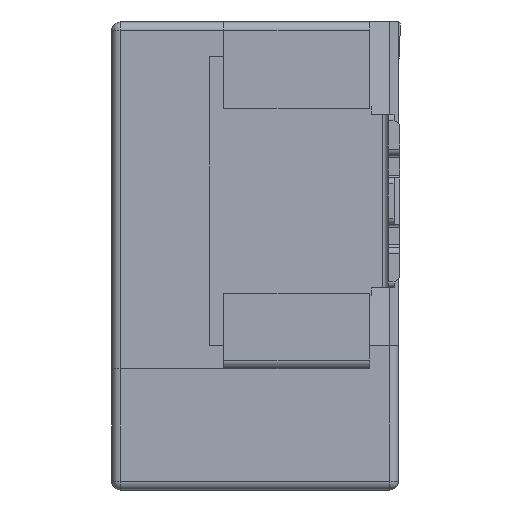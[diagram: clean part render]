
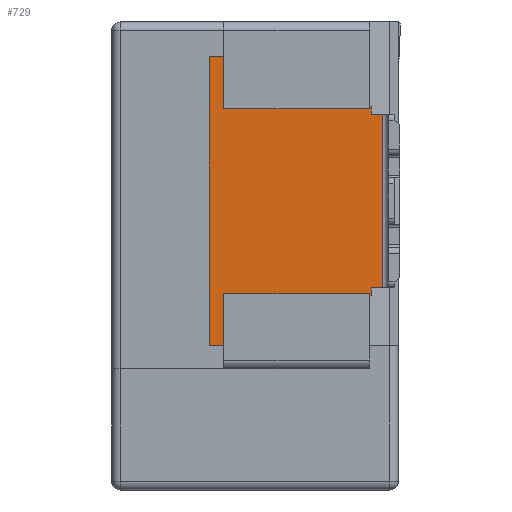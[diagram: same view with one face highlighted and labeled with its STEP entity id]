
A CAD part, left-side view. The second image highlights one B-rep face of the part: STEP entity #729.
In plain terms, the highlighted planar face has unit normal (-1, 0, 0).
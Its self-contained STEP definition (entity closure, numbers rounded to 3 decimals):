
#58 = VERTEX_POINT ( 'NONE', #28548 ) ;
#698 = DIRECTION ( 'NONE',  ( 0., 0., -1. ) ) ;
#729 = ADVANCED_FACE ( 'NONE', ( #6520 ), #9304, .F. ) ;
#866 = VECTOR ( 'NONE', #23124, 1000. ) ;
#987 = VECTOR ( 'NONE', #16977, 1000. ) ;
#1033 = CARTESIAN_POINT ( 'NONE',  ( -18.45, 0.22, 6.8 ) ) ;
#1131 = LINE ( 'NONE', #11583, #987 ) ;
#1147 = CARTESIAN_POINT ( 'NONE',  ( -18.45, 5.77, 5. ) ) ;
#1577 = LINE ( 'NONE', #12212, #30098 ) ;
#1878 = EDGE_CURVE ( 'NONE', #16275, #15589, #33023, .T. ) ;
#2202 = ORIENTED_EDGE ( 'NONE', *, *, #21168, .F. ) ;
#2263 = CARTESIAN_POINT ( 'NONE',  ( -18.45, -0.23, -3. ) ) ;
#2268 = CARTESIAN_POINT ( 'NONE',  ( -18.45, 5.27, -5. ) ) ;
#2292 = EDGE_CURVE ( 'NONE', #16141, #12809, #16798, .T. ) ;
#2480 = LINE ( 'NONE', #31743, #26340 ) ;
#3061 = LINE ( 'NONE', #31979, #22755 ) ;
#3113 = DIRECTION ( 'NONE',  ( 0., 1., 0. ) ) ;
#3246 = VECTOR ( 'NONE', #10176, 1000. ) ;
#3322 = VERTEX_POINT ( 'NONE', #2263 ) ;
#3334 = VECTOR ( 'NONE', #13682, 1000. ) ;
#3364 = VECTOR ( 'NONE', #31696, 1000. ) ;
#3467 = EDGE_CURVE ( 'NONE', #33397, #15589, #16030, .T. ) ;
#3638 = CARTESIAN_POINT ( 'NONE',  ( -18.45, 5.77, 5. ) ) ;
#4090 = DIRECTION ( 'NONE',  ( 0., -1., 0. ) ) ;
#4401 = CARTESIAN_POINT ( 'NONE',  ( -18.45, 5.27, 5. ) ) ;
#4912 = EDGE_CURVE ( 'NONE', #3322, #7950, #33414, .T. ) ;
#5135 = VECTOR ( 'NONE', #13191, 1000. ) ;
#5609 = EDGE_CURVE ( 'NONE', #58, #25132, #1131, .T. ) ;
#5655 = ORIENTED_EDGE ( 'NONE', *, *, #3467, .F. ) ;
#6520 = FACE_OUTER_BOUND ( 'NONE', #17108, .T. ) ;
#6529 = VERTEX_POINT ( 'NONE', #26908 ) ;
#6746 = CARTESIAN_POINT ( 'NONE',  ( -18.45, 0.16, 3. ) ) ;
#6862 = DIRECTION ( 'NONE',  ( 0., 1., 0. ) ) ;
#7156 = DIRECTION ( 'NONE',  ( 0., 0., -1. ) ) ;
#7370 = CARTESIAN_POINT ( 'NONE',  ( -18.45, 0.22, -3.335 ) ) ;
#7950 = VERTEX_POINT ( 'NONE', #14539 ) ;
#8077 = LINE ( 'NONE', #15764, #3246 ) ;
#8521 = VECTOR ( 'NONE', #22863, 1000. ) ;
#8538 = ORIENTED_EDGE ( 'NONE', *, *, #15181, .F. ) ;
#8995 = VERTEX_POINT ( 'NONE', #12347 ) ;
#9036 = LINE ( 'NONE', #1033, #11351 ) ;
#9304 = PLANE ( 'NONE',  #28050 ) ;
#9545 = CARTESIAN_POINT ( 'NONE',  ( -18.45, 5.77, -3. ) ) ;
#10176 = DIRECTION ( 'NONE',  ( 0., 0.707, 0.707 ) ) ;
#10443 = CARTESIAN_POINT ( 'NONE',  ( -18.45, -0.78, -3.2 ) ) ;
#10795 = LINE ( 'NONE', #10443, #14028 ) ;
#11273 = VERTEX_POINT ( 'NONE', #29893 ) ;
#11287 = CARTESIAN_POINT ( 'NONE',  ( -18.45, 5.27, 3.2 ) ) ;
#11295 = ORIENTED_EDGE ( 'NONE', *, *, #27262, .F. ) ;
#11351 = VECTOR ( 'NONE', #698, 1000. ) ;
#11583 = CARTESIAN_POINT ( 'NONE',  ( -18.45, 0.22, 6.8 ) ) ;
#12034 = DIRECTION ( 'NONE',  ( 0., -1., 0. ) ) ;
#12212 = CARTESIAN_POINT ( 'NONE',  ( -18.45, 5.77, 5. ) ) ;
#12347 = CARTESIAN_POINT ( 'NONE',  ( -18.45, 0.16, 3.275 ) ) ;
#12720 = EDGE_CURVE ( 'NONE', #8995, #11273, #8077, .T. ) ;
#12809 = VERTEX_POINT ( 'NONE', #21501 ) ;
#13191 = DIRECTION ( 'NONE',  ( 0., 0., -1. ) ) ;
#13682 = DIRECTION ( 'NONE',  ( 0., 0., -1. ) ) ;
#14028 = VECTOR ( 'NONE', #3113, 1000. ) ;
#14223 = CARTESIAN_POINT ( 'NONE',  ( -18.45, 5.77, -5. ) ) ;
#14413 = VECTOR ( 'NONE', #18409, 1000. ) ;
#14539 = CARTESIAN_POINT ( 'NONE',  ( -18.45, 0.16, -3. ) ) ;
#14565 = EDGE_CURVE ( 'NONE', #11273, #12809, #9036, .T. ) ;
#14742 = VERTEX_POINT ( 'NONE', #6746 ) ;
#14880 = ORIENTED_EDGE ( 'NONE', *, *, #20844, .F. ) ;
#15031 = ORIENTED_EDGE ( 'NONE', *, *, #24857, .T. ) ;
#15181 = EDGE_CURVE ( 'NONE', #31282, #3322, #2480, .T. ) ;
#15589 = VERTEX_POINT ( 'NONE', #2268 ) ;
#15750 = VERTEX_POINT ( 'NONE', #3638 ) ;
#15764 = CARTESIAN_POINT ( 'NONE',  ( -18.45, 0.46, 3.575 ) ) ;
#16030 = LINE ( 'NONE', #18637, #3364 ) ;
#16141 = VERTEX_POINT ( 'NONE', #11287 ) ;
#16275 = VERTEX_POINT ( 'NONE', #29918 ) ;
#16463 = CARTESIAN_POINT ( 'NONE',  ( -18.45, 0.16, 5. ) ) ;
#16615 = LINE ( 'NONE', #17974, #29015 ) ;
#16798 = LINE ( 'NONE', #27414, #8521 ) ;
#16977 = DIRECTION ( 'NONE',  ( 0., 0., -1. ) ) ;
#17002 = ORIENTED_EDGE ( 'NONE', *, *, #5609, .T. ) ;
#17108 = EDGE_LOOP ( 'NONE', ( #23684, #2202, #21454, #15031, #23547, #5655, #14880, #17002, #30684, #11295, #24102, #8538, #31782, #21508, #28678, #18693 ) ) ;
#17974 = CARTESIAN_POINT ( 'NONE',  ( -18.45, 0.16, 5. ) ) ;
#18304 = EDGE_CURVE ( 'NONE', #14742, #31282, #26631, .T. ) ;
#18409 = DIRECTION ( 'NONE',  ( 0., -0.707, 0.707 ) ) ;
#18450 = DIRECTION ( 'NONE',  ( 0., -1., 0. ) ) ;
#18545 = CARTESIAN_POINT ( 'NONE',  ( -18.45, -0.23, 3. ) ) ;
#18582 = DIRECTION ( 'NONE',  ( 0., 0., -1. ) ) ;
#18637 = CARTESIAN_POINT ( 'NONE',  ( -18.45, 5.27, -3.2 ) ) ;
#18693 = ORIENTED_EDGE ( 'NONE', *, *, #14565, .T. ) ;
#18987 = EDGE_CURVE ( 'NONE', #8995, #14742, #16615, .T. ) ;
#19828 = CARTESIAN_POINT ( 'NONE',  ( -18.45, 5.27, -3.2 ) ) ;
#20837 = CARTESIAN_POINT ( 'NONE',  ( -18.45, 0.16, -3.275 ) ) ;
#20844 = EDGE_CURVE ( 'NONE', #58, #33397, #10795, .T. ) ;
#21168 = EDGE_CURVE ( 'NONE', #27521, #16141, #28521, .T. ) ;
#21204 = CARTESIAN_POINT ( 'NONE',  ( -18.45, 5.27, 5.3 ) ) ;
#21454 = ORIENTED_EDGE ( 'NONE', *, *, #27922, .F. ) ;
#21501 = CARTESIAN_POINT ( 'NONE',  ( -18.45, 0.22, 3.2 ) ) ;
#21508 = ORIENTED_EDGE ( 'NONE', *, *, #18987, .F. ) ;
#22721 = DIRECTION ( 'NONE',  ( 1., 0., 0. ) ) ;
#22755 = VECTOR ( 'NONE', #18582, 1000. ) ;
#22863 = DIRECTION ( 'NONE',  ( 0., -1., 0. ) ) ;
#23124 = DIRECTION ( 'NONE',  ( 0., 1., 0. ) ) ;
#23190 = VECTOR ( 'NONE', #4090, 1000. ) ;
#23547 = ORIENTED_EDGE ( 'NONE', *, *, #1878, .T. ) ;
#23684 = ORIENTED_EDGE ( 'NONE', *, *, #2292, .F. ) ;
#24102 = ORIENTED_EDGE ( 'NONE', *, *, #4912, .F. ) ;
#24819 = EDGE_CURVE ( 'NONE', #25132, #6529, #28505, .T. ) ;
#24857 = EDGE_CURVE ( 'NONE', #15750, #16275, #3061, .T. ) ;
#25132 = VERTEX_POINT ( 'NONE', #7370 ) ;
#26340 = VECTOR ( 'NONE', #28608, 1000. ) ;
#26631 = LINE ( 'NONE', #28893, #28392 ) ;
#26908 = CARTESIAN_POINT ( 'NONE',  ( -18.45, 0.16, -3.275 ) ) ;
#27262 = EDGE_CURVE ( 'NONE', #7950, #6529, #32825, .T. ) ;
#27414 = CARTESIAN_POINT ( 'NONE',  ( -18.45, -0.78, 3.2 ) ) ;
#27521 = VERTEX_POINT ( 'NONE', #4401 ) ;
#27922 = EDGE_CURVE ( 'NONE', #15750, #27521, #1577, .T. ) ;
#28050 = AXIS2_PLACEMENT_3D ( 'NONE', #1147, #22721, #6862 ) ;
#28392 = VECTOR ( 'NONE', #18450, 1000. ) ;
#28505 = LINE ( 'NONE', #20837, #14413 ) ;
#28521 = LINE ( 'NONE', #21204, #5135 ) ;
#28548 = CARTESIAN_POINT ( 'NONE',  ( -18.45, 0.22, -3.2 ) ) ;
#28608 = DIRECTION ( 'NONE',  ( 0., 0., -1. ) ) ;
#28678 = ORIENTED_EDGE ( 'NONE', *, *, #12720, .T. ) ;
#28893 = CARTESIAN_POINT ( 'NONE',  ( -18.45, 5.77, 3. ) ) ;
#29015 = VECTOR ( 'NONE', #7156, 1000. ) ;
#29893 = CARTESIAN_POINT ( 'NONE',  ( -18.45, 0.22, 3.335 ) ) ;
#29918 = CARTESIAN_POINT ( 'NONE',  ( -18.45, 5.77, -5. ) ) ;
#30098 = VECTOR ( 'NONE', #12034, 1000. ) ;
#30684 = ORIENTED_EDGE ( 'NONE', *, *, #24819, .T. ) ;
#31282 = VERTEX_POINT ( 'NONE', #18545 ) ;
#31696 = DIRECTION ( 'NONE',  ( 0., 0., -1. ) ) ;
#31743 = CARTESIAN_POINT ( 'NONE',  ( -18.45, -0.23, 5. ) ) ;
#31782 = ORIENTED_EDGE ( 'NONE', *, *, #18304, .F. ) ;
#31979 = CARTESIAN_POINT ( 'NONE',  ( -18.45, 5.77, 5. ) ) ;
#32825 = LINE ( 'NONE', #16463, #3334 ) ;
#33023 = LINE ( 'NONE', #14223, #23190 ) ;
#33397 = VERTEX_POINT ( 'NONE', #19828 ) ;
#33414 = LINE ( 'NONE', #9545, #866 ) ;
